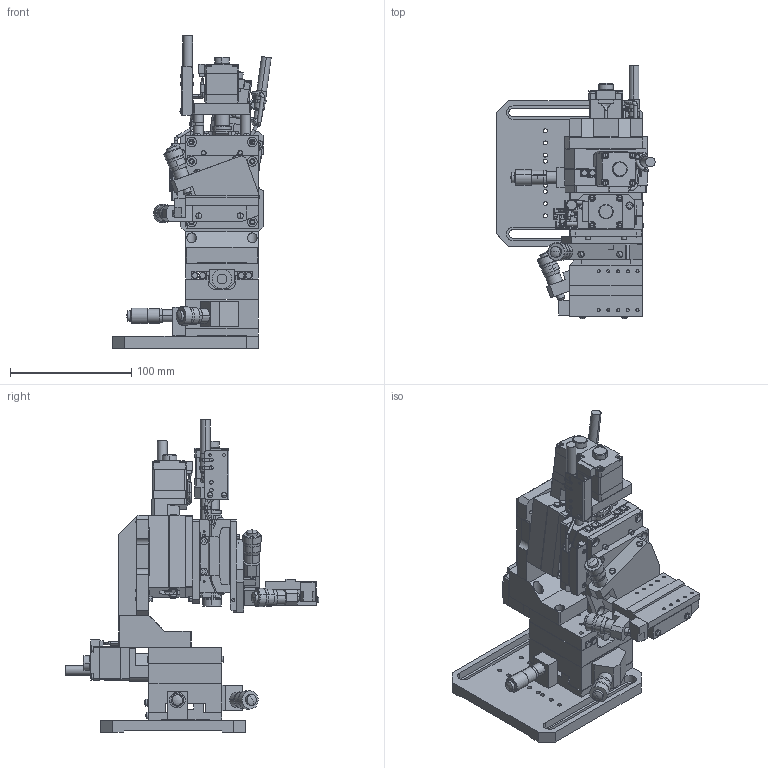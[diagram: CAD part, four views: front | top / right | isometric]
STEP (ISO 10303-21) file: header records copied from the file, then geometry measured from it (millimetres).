
FILE_DESCRIPTION(('STEP AP203'),'1');
FILE_NAME('C:/Users/00652/Desktop/ES3800-8B-L.step','2017-06-02T04:54:23',(' '),(' '),'Spatial InterOp 3D',' ',' ');
FILE_SCHEMA(('CONFIG_CONTROL_DESIGN'));
Length unit declared in the file: millimetre
Products named in the file (29): 1; 2; 3; 4; 5; 6; 7; 8; 9; 10; 11; 12; 13; 14; 15; 16; 17; 18; 19; 20; 21; 22; 23; 24; 25; 26; 27; 28; 29
Bounding box: 130.63 x 209.24 x 257.5 mm (x, y, z)
Volume: 908477.9 mm3; surface area: 323310.7 mm2
Topology: 29 solids, 64 shells, 3593 faces, 9603 edges, 6180 vertices
Faces by surface type: plane 1710, cylinder 1386, cone 309, torus 102, sphere 72, bspline 14
Entity records: 115060 total; most frequent: CARTESIAN_POINT 21335, DIRECTION 20194, ORIENTED_EDGE 18754, EDGE_CURVE 9377, AXIS2_PLACEMENT_3D 7363, VERTEX_POINT 6180, LINE 5468, VECTOR 5468
